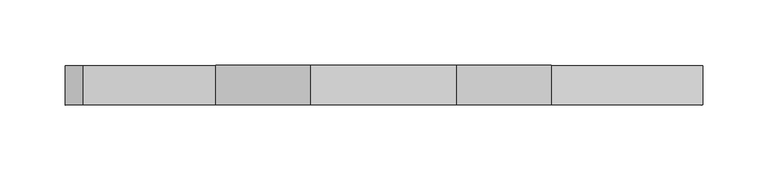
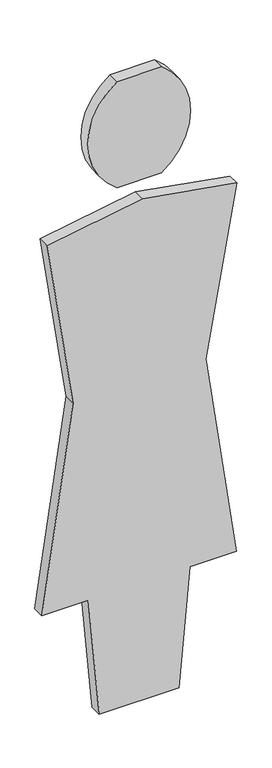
"""IFC4 building model written with IfcOpenShell, lengths in millimetres: proxy geometry, M_RPC 女性 : Cynthia."""

from ifc_helpers import new_model, si_unit, point, frame, frame_2d, origin, place, context, project, spatial, polyline, circle_curve, trimmed, segment, composite_curve, outline, extrude, source, transform, mapped, element, save


def entourage_8370d26b(model_context):
    return source(origin(), model_context, "Body", "SweptSolid", [
        extrude(outline(polyline([(0.0, -99.9567871), (0.0, 99.9567871), (309.1053377, 127.0), (309.1053377, 243.0632617), (842.5053377, 166.9252715), (1279.1708006, 243.9211741), (1320.8, 7.8302523), (1278.9590152, -229.4617641), (842.5053377, -165.4216584), (309.1053377, -243.0632617), (309.1053377, -127.0), (0.0, -99.9567871)])), frame((0.0, -15.0, 0.0), z_axis=(0.0, 1.0, 0.0), x_axis=(0.0, 0.0, 1.0)), (0.0, 0.0, 1.0), 30.0437636),
        extrude(outline(composite_curve([segment(polyline([(1651.0, 55.7167859), (1651.0, -55.7167859)]), True, "CONTINUOUS"), segment(trimmed(circle_curve(frame_2d((1511.3, 42.7250777)), 170.9002356), [point((1651.0, -55.7167859))], [point((1371.6, -55.7167859))], False, "CARTESIAN"), True, "CONTINUOUS"), segment(polyline([(1371.6, -55.7167859), (1371.6, 55.7167859)]), True, "CONTINUOUS"), segment(trimmed(circle_curve(frame_2d((1511.3, -42.7250777)), 170.9002356), [point((1371.6, 55.7167859))], [point((1651.0, 55.7167859))], False, "CARTESIAN"), True, "CONTINUOUS")], self_intersect=False)), frame((0.0, -15.0, 0.0), z_axis=(0.0, 1.0, 0.0), x_axis=(0.0, 0.0, 1.0)), (0.0, 0.0, 1.0), 30.0437636),
    ])


if __name__ == "__main__":
    model = new_model("IFC4")
    model_context = context("Model", 3, world=origin())
    ifc_project = project(units=[si_unit("LENGTHUNIT", "METRE", prefix="MILLI")], contexts=[model_context])
    site = spatial("IfcSite", under=ifc_project)
    building = spatial("IfcBuilding", under=site)
    placement = place(None, origin())
    entourage_shape = entourage_8370d26b(model_context)
    element("IfcBuildingElementProxy", 1, Name="M_RPC 女性 : Cynthia", ObjectType="M_RPC 女性 : Cynthia", at=placement, inside=building, context=model_context, shape_type="MappedRepresentation", body=[
        mapped(entourage_shape, transform((0.0, 0.0, 0.0), x_axis=(1.0, 0.0, 0.0), y_axis=(0.0, 1.0, 0.0), z_axis=(0.0, 0.0, 1.0))),
    ])
    save(model, "model.ifc")
